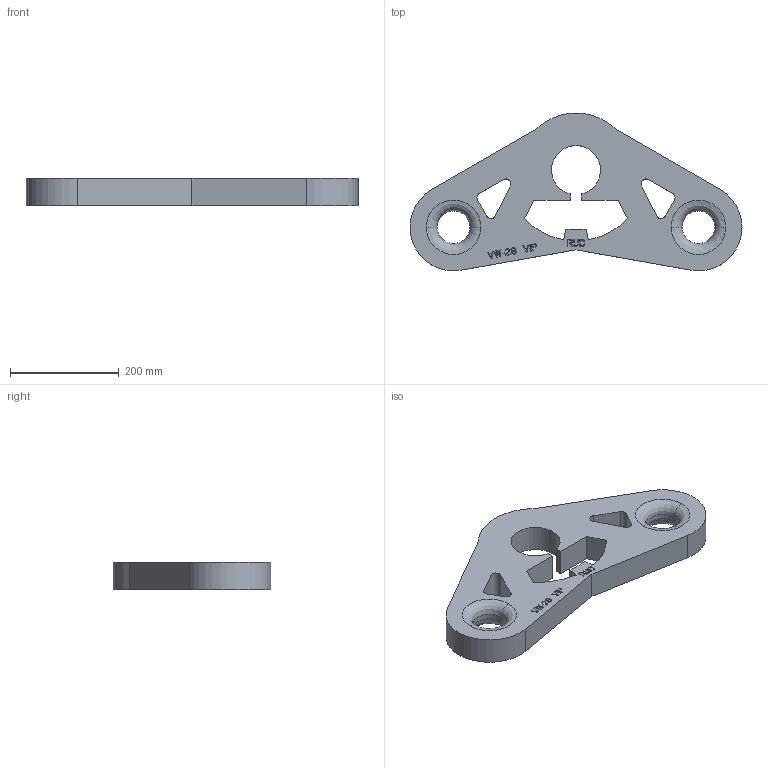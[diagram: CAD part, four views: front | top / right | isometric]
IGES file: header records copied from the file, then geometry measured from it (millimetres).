
Start section:  PTC IGES file: 001-m35084-p-1.igs
Global section: file name: 001-m35084-p-1.igs; native system: Pro/ENGINEER by Parametric Technology Corporation; preprocessor: 2011490; author: anja.joas; organization: Unknown; date: 20190123.100433; units: millimetre
Bounding box: 610 x 289.61 x 50 mm (x, y, z)
Volume: 4491422 mm3; surface area: 327429.6 mm2
Topology: 1 solids, 1 shells, 292 faces, 814 edges, 540 vertices
Faces by surface type: bspline 267, revolution 25
